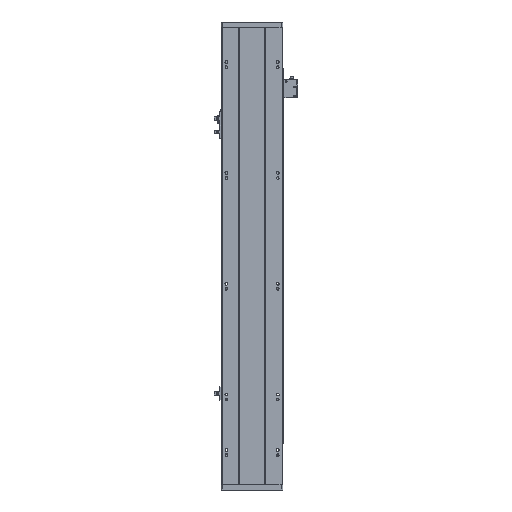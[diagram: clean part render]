
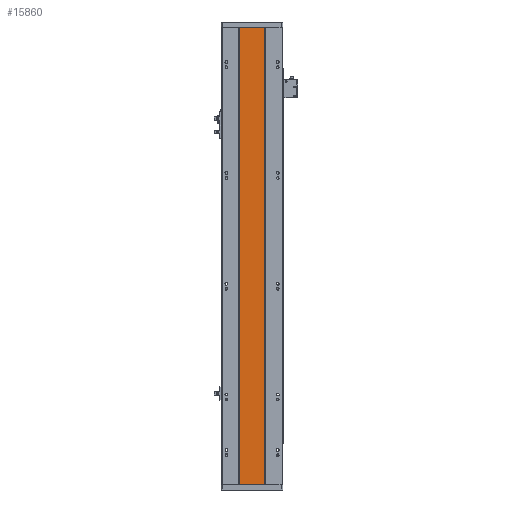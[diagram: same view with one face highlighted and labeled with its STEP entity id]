
A CAD part, front view. The second image highlights one B-rep face of the part: STEP entity #15860.
In plain terms, the highlighted planar face has unit normal (0, -1, 0).
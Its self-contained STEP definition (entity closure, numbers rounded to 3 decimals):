
#1166 = EDGE_CURVE ( 'NONE', #15830, #17492, #21854, .T. ) ;
#1175 = CARTESIAN_POINT ( 'NONE',  ( 0., 115.96, 0. ) ) ;
#1649 = CARTESIAN_POINT ( 'NONE',  ( 133.07, 115.96, 892. ) ) ;
#2703 = LINE ( 'NONE', #1175, #24226 ) ;
#3736 = VECTOR ( 'NONE', #19865, 1000. ) ;
#4779 = PLANE ( 'NONE',  #8131 ) ;
#4996 = ORIENTED_EDGE ( 'NONE', *, *, #1166, .F. ) ;
#6930 = CARTESIAN_POINT ( 'NONE',  ( 133.07, 115.96, 0. ) ) ;
#7604 = DIRECTION ( 'NONE',  ( 0., 0., -1. ) ) ;
#7758 = CARTESIAN_POINT ( 'NONE',  ( 183.063, 115.96, 892. ) ) ;
#8001 = ORIENTED_EDGE ( 'NONE', *, *, #11824, .T. ) ;
#8131 = AXIS2_PLACEMENT_3D ( 'NONE', #20632, #14644, #22702 ) ;
#9018 = EDGE_CURVE ( 'NONE', #17993, #17492, #2703, .T. ) ;
#10434 = LINE ( 'NONE', #13339, #22975 ) ;
#11824 = EDGE_CURVE ( 'NONE', #22360, #17993, #24437, .T. ) ;
#12542 = CARTESIAN_POINT ( 'NONE',  ( 183.063, 115.96, 892. ) ) ;
#13076 = CARTESIAN_POINT ( 'NONE',  ( 183.063, 115.96, 0. ) ) ;
#13339 = CARTESIAN_POINT ( 'NONE',  ( 0., 115.96, 892. ) ) ;
#13786 = VECTOR ( 'NONE', #7604, 1000. ) ;
#14644 = DIRECTION ( 'NONE',  ( 0., 1., 0. ) ) ;
#14895 = FACE_OUTER_BOUND ( 'NONE', #24644, .T. ) ;
#15830 = VERTEX_POINT ( 'NONE', #12542 ) ;
#15860 = ADVANCED_FACE ( 'NONE', ( #14895 ), #4779, .F. ) ;
#15900 = ORIENTED_EDGE ( 'NONE', *, *, #25511, .F. ) ;
#16519 = CARTESIAN_POINT ( 'NONE',  ( 133.07, 115.96, 892. ) ) ;
#17199 = DIRECTION ( 'NONE',  ( 1., 0., 0. ) ) ;
#17492 = VERTEX_POINT ( 'NONE', #13076 ) ;
#17993 = VERTEX_POINT ( 'NONE', #6930 ) ;
#19865 = DIRECTION ( 'NONE',  ( 0., 0., -1. ) ) ;
#19915 = ORIENTED_EDGE ( 'NONE', *, *, #9018, .T. ) ;
#20632 = CARTESIAN_POINT ( 'NONE',  ( 0., 115.96, 892. ) ) ;
#21176 = DIRECTION ( 'NONE',  ( 1., 0., 0. ) ) ;
#21854 = LINE ( 'NONE', #7758, #3736 ) ;
#22360 = VERTEX_POINT ( 'NONE', #16519 ) ;
#22702 = DIRECTION ( 'NONE',  ( -1., 0., 0. ) ) ;
#22975 = VECTOR ( 'NONE', #17199, 1000. ) ;
#24226 = VECTOR ( 'NONE', #21176, 1000. ) ;
#24437 = LINE ( 'NONE', #1649, #13786 ) ;
#24644 = EDGE_LOOP ( 'NONE', ( #19915, #4996, #15900, #8001 ) ) ;
#25511 = EDGE_CURVE ( 'NONE', #22360, #15830, #10434, .T. ) ;
